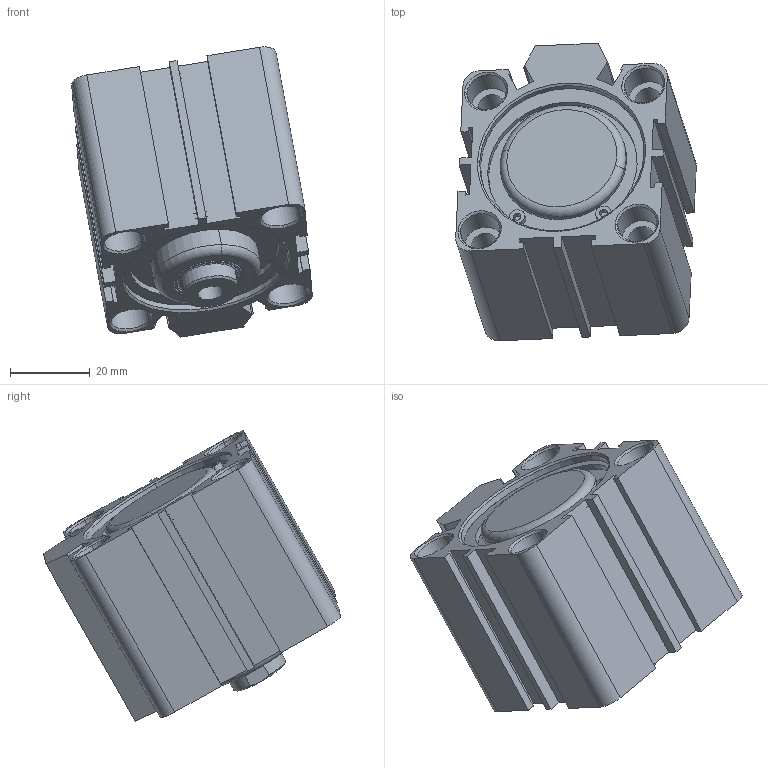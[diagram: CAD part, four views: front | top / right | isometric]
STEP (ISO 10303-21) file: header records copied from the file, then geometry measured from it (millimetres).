
FILE_DESCRIPTION (( 'STEP AP214' ), '1' );
FILE_NAME ('SDA_40_10_WEB.STEP', '2021-01-22T12:02:14', ( 'cagdas' ), ( '' ), 'SwSTEP 2.0', 'SolidWorks 2021', '' );
FILE_SCHEMA (( 'AUTOMOTIVE_DESIGN' ));
Length unit declared in the file: millimetre
Products named in the file (8): SDA40ARKAKAPAK; SDA40PAPYUZUK; 16_MIL_WEB; SDA40ONKAPAK; SDA_40_BORU_WEB; SDA40BOGAZKECESI; SDA40SEGMAN; SDA_40_10_WEB
Assembly tree (8 placements, depth 2):
  SDA_40_10_WEB
    SDA40ARKAKAPAK
    SDA40SEGMAN  x2
    SDA40ONKAPAK
    SDA40PAPYUZUK
    SDA40BOGAZKECESI
    SDA_40_BORU_WEB
    16_MIL_WEB
Bounding box: 60.41 x 74.71 x 72.9 mm (x, y, z)
Volume: 72218.3 mm3; surface area: 41818.2 mm2
Topology: 8 solids, 8 shells, 429 faces, 1063 edges, 683 vertices
Faces by surface type: plane 164, cylinder 128, cone 72, bspline 61, torus 4
Entity records: 16642 total; most frequent: CARTESIAN_POINT 5273, ORIENTED_EDGE 2030, DIRECTION 1928, EDGE_CURVE 1015, AXIS2_PLACEMENT_3D 686, VERTEX_POINT 651, VECTOR 556, LINE 556
